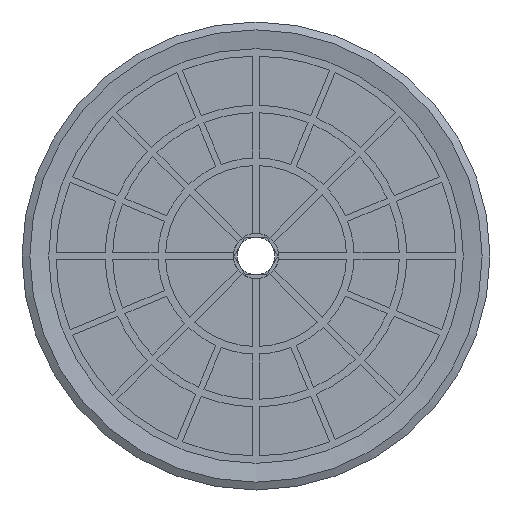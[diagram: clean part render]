
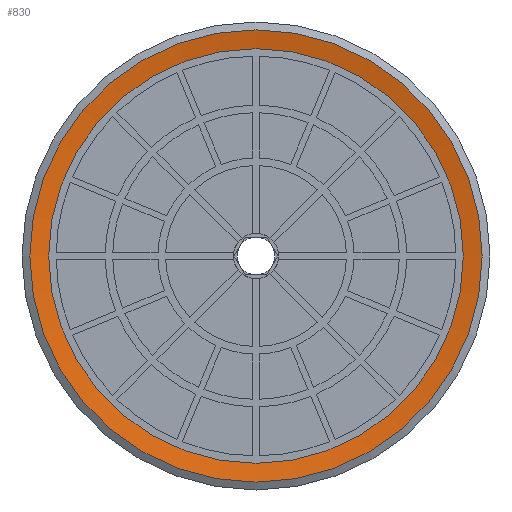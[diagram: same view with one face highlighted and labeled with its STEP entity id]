
A CAD part, front view. The second image highlights one B-rep face of the part: STEP entity #830.
In plain terms, the highlighted conical face has half-angle 80 degrees and reference radius 15 mm.
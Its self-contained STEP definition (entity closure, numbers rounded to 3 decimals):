
#830=ADVANCED_FACE('',(#1610,#1611),#1612,.F.);
#1610=FACE_BOUND('',#2472,.T.);
#1611=FACE_OUTER_BOUND('',#2473,.T.);
#1612=CONICAL_SURFACE('',#2474,15.0,1.396);
#2472=EDGE_LOOP('',(#5193));
#2473=EDGE_LOOP('',(#5194));
#2474=AXIS2_PLACEMENT_3D('',#5195,#5196,#5197);
#5193=ORIENTED_EDGE('',*,*,#6277,.T.);
#5194=ORIENTED_EDGE('',*,*,#6265,.F.);
#5195=CARTESIAN_POINT('',(0.0,0.,0.));
#5196=DIRECTION('',(0.0,0.,-1.0));
#5197=DIRECTION('',(0.0,1.0,0.));
#6265=EDGE_CURVE('',#7555,#7555,#7556,.T.);
#6277=EDGE_CURVE('',#7568,#7568,#7569,.T.);
#7555=VERTEX_POINT('',#9671);
#7556=CIRCLE('',#9672,15.0);
#7568=VERTEX_POINT('',#9691);
#7569=CIRCLE('',#9692,13.75);
#9671=CARTESIAN_POINT('',(0.0,-15.0,0.));
#9672=AXIS2_PLACEMENT_3D('',#11308,#11309,#11310);
#9691=CARTESIAN_POINT('',(0.0,-13.75,0.22));
#9692=AXIS2_PLACEMENT_3D('',#11330,#11331,#11332);
#11308=CARTESIAN_POINT('',(0.0,0.,0.));
#11309=DIRECTION('',(0.0,0.,1.0));
#11310=DIRECTION('',(0.0,-1.0,0.));
#11330=CARTESIAN_POINT('',(0.0,0.,0.22));
#11331=DIRECTION('',(0.0,0.,1.0));
#11332=DIRECTION('',(0.0,-1.0,0.));
